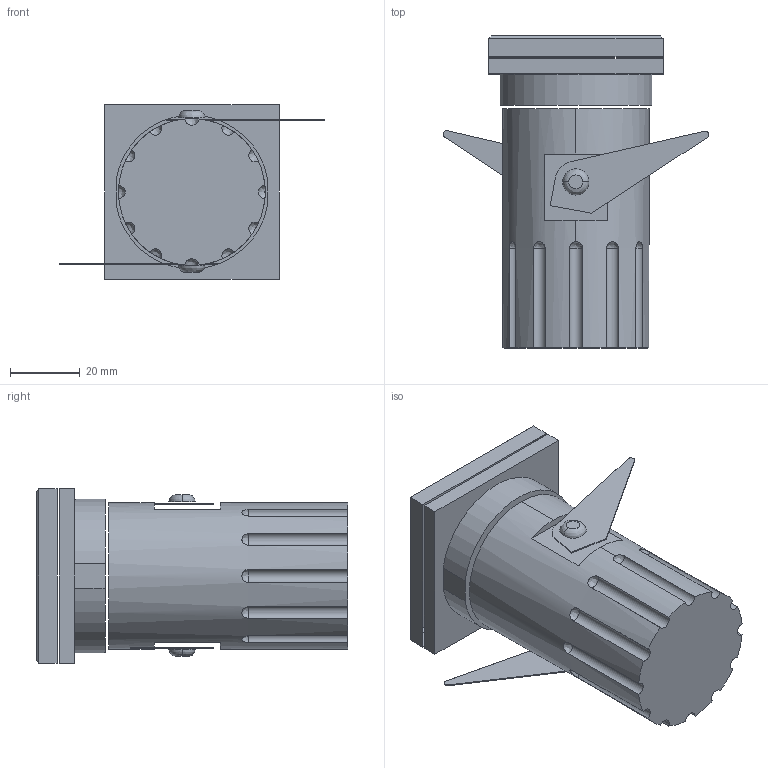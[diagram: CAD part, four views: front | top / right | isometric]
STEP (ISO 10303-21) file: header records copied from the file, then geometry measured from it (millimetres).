
FILE_DESCRIPTION((''),'2;1');
FILE_NAME('CNC50_ZERO_ASM','2025-07-30T12:12:24',('cad5'),(''),'CREO PARAMETRIC BY PTC INC, 2025010','CREO PARAMETRIC BY PTC INC, 2025010','');
FILE_SCHEMA(('CONFIG_CONTROL_DESIGN'));
Length unit declared in the file: millimetre
Products named in the file (1): CNC50_ZERO_ASM
Bounding box: 76.01 x 89.31 x 50 mm (x, y, z)
Surface area: 22821.5 mm2 (no closed solid volume)
Topology: 0 solids, 10 shells, 62 faces, 218 edges, 154 vertices
Faces by surface type: plane 30, cylinder 16, bspline 16
Entity records: 3170 total; most frequent: CARTESIAN_POINT 1305, DIRECTION 382, ORIENTED_EDGE 368, EDGE_CURVE 218, VERTEX_POINT 154, AXIS2_PLACEMENT_3D 143, VECTOR 96, LINE 96
